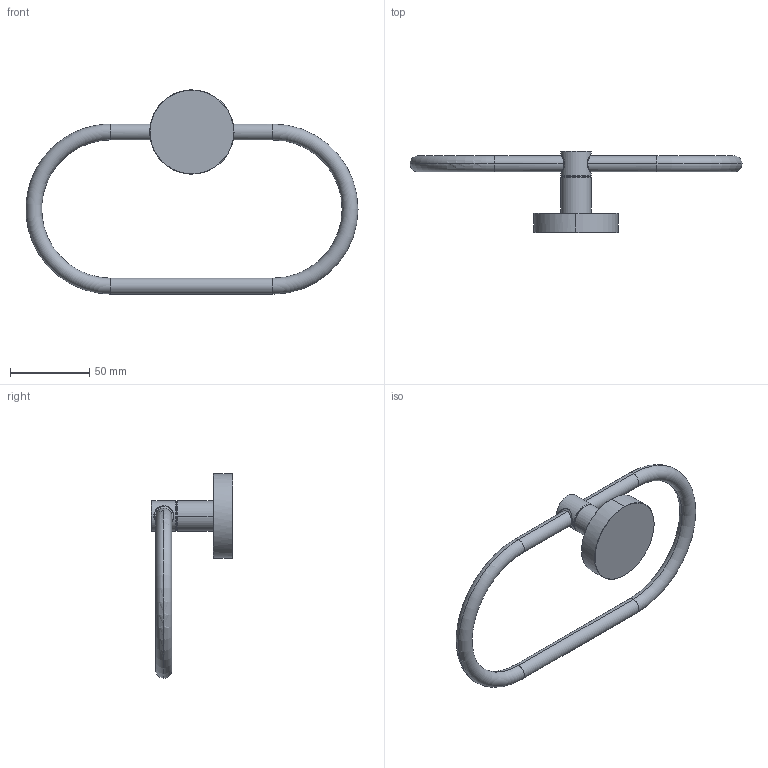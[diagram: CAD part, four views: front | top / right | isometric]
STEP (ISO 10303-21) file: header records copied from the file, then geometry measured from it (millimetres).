
FILE_DESCRIPTION(('THIS FILE CONTAINS SOME STEP INSTANCES'),'1');
FILE_NAME('HAR 022-light.stp','2015-10-27T15:47:26',('UNDEFINED'),('UNDEFINED'),'T-FLEX CAD STEP converter','T-FLEX CAD','');
FILE_SCHEMA(('CONFIG_CONTROL_DESIGN'));
Length unit declared in the file: metre
Products named in the file (1): har_022
Bounding box: 208.88 x 51 x 128.5 mm (x, y, z)
Volume: 75992.3 mm3; surface area: 24050.2 mm2
Topology: 1 solids, 1 shells, 47 faces, 105 edges, 62 vertices
Faces by surface type: cylinder 21, cone 12, bspline 5, plane 5, torus 4
Entity records: 4721 total; most frequent: CARTESIAN_POINT 3875, ORIENTED_EDGE 210, DIRECTION 118, EDGE_CURVE 105, VERTEX_POINT 62, EDGE_LOOP 51, ADVANCED_FACE 47, FACE_OUTER_BOUND 47
